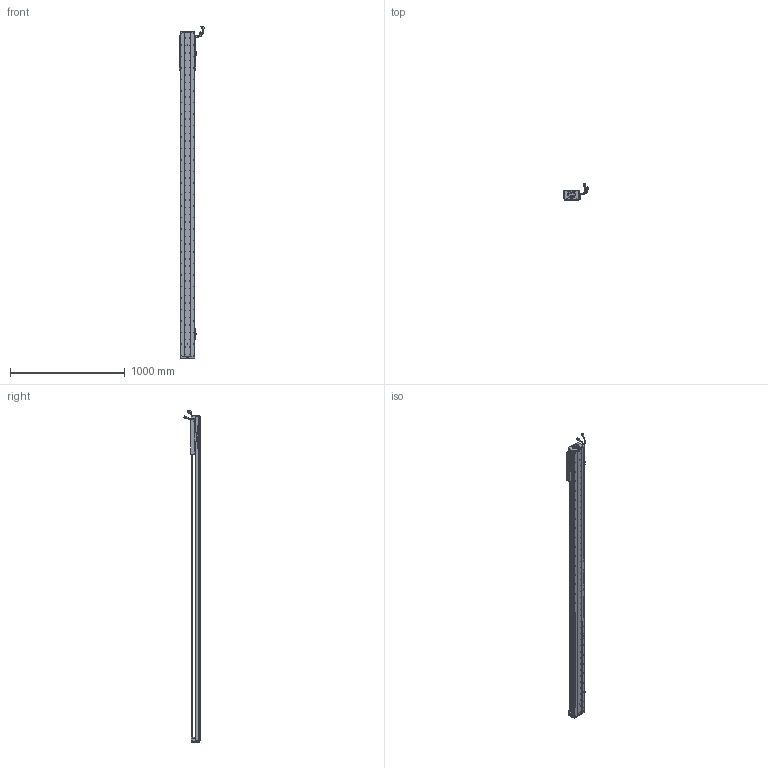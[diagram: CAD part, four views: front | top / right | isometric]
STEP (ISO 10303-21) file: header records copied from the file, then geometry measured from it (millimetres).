
FILE_DESCRIPTION (( 'STEP AP203' ), '1' );
FILE_NAME ('Z4-RY120D-1-L500-B-K.SLDASM_2450.step', '2021-05-17T06:10:29', ( '盈信电脑' ), ( '东莞市道滘镇水果街19号' ), 'SwSTEP 2.0', 'SolidWorks 2016', '' );
FILE_SCHEMA (( 'CONFIG_CONTROL_DESIGN' ));
Length unit declared in the file: millimetre
Products named in the file (37): SCREW-M1.7-1; 140蚥薯蝶輸; SHIELDPLATE; LABEL; HARNESS-Part-1; Z-120詩湍傷裔啣; 672嫖萇羲壽假蚾釱; 覜茼ん672; HOLDER0; RY100FB-遵嫖萇覜茼え; Z-RY120D詩湍狟揤裔; PBU_SHEET; SEAL; Z4-RY120铝滑块（21款）; 140雄赽晤鎢ん堤盄; Z-RY120D詩湍奻揤裔; Z4-RY120-500-倰第菁釱_2450; SCREW-M1.6-2; Z4-RY120D-1-L500-B-K.SLDASM_2450; 080黍杅芛假蚾釱21遴; HARNESS; LABEL-Part-1; SCALE; SCREW-M1.6-1; SCREW-M1.6; SCREW-M1.7; 榋妏寠巭燃_暯_M2_2; HARNESS-Part-2; SCALE-Part-2; COVER; COVER-Part-1; SEAL-Part-1; SCALE-Part-1; Z4-RY120-L500詩湍100mm遵_2450; PSLH080_PSLF2; 120-Z-臏賑輸盄裔(21遴); SCREW-M1.6-3
Assembly tree (43 placements, depth 4):
  Z4-RY120D-1-L500-B-K.SLDASM_2450
    Z4-RY120-500-倰第菁釱_2450
    覜茼ん672  x3
    672嫖萇羲壽假蚾釱  x2
    Z4-RY120铝滑块（21款）
    PSLH080_PSLF2
      SCALE
        SCALE-Part-1
        SCALE-Part-2
      HARNESS
        HARNESS-Part-1
        HARNESS-Part-2
      LABEL
        LABEL-Part-1
      COVER
        COVER-Part-1
      SEAL
        SEAL-Part-1
      榋妏寠巭燃_暯_M2_2
      SHIELDPLATE
      SCREW-M1.7
      SCREW-M1.7-1
      PBU_SHEET
      SCREW-M1.6
      SCREW-M1.6-1
      SCREW-M1.6-2
      SCREW-M1.6-3
      HOLDER0
    080黍杅芛假蚾釱21遴
    120-Z-臏賑輸盄裔(21遴)
    140雄赽晤鎢ん堤盄
    140蚥薯蝶輸  x2
    RY100FB-遵嫖萇覜茼え
    Z-120詩湍傷裔啣  x2
    Z-RY120D詩湍奻揤裔  x2
    Z-RY120D詩湍狟揤裔  x2
    Z4-RY120-L500詩湍100mm遵_2450
Bounding box: 222.83 x 140.94 x 2888.99 mm (x, y, z)
Volume: 6884836.6 mm3; surface area: 2380832.7 mm2
Topology: 38 solids, 38 shells, 3849 faces, 11028 edges, 6960 vertices
Faces by surface type: cylinder 2056, plane 1273, cone 398, torus 69, bspline 53
Entity records: 130877 total; most frequent: CARTESIAN_POINT 40630, ORIENTED_EDGE 18784, DIRECTION 17082, EDGE_CURVE 9392, AXIS2_PLACEMENT_3D 6326, VERTEX_POINT 6080, VECTOR 4430, LINE 4430
